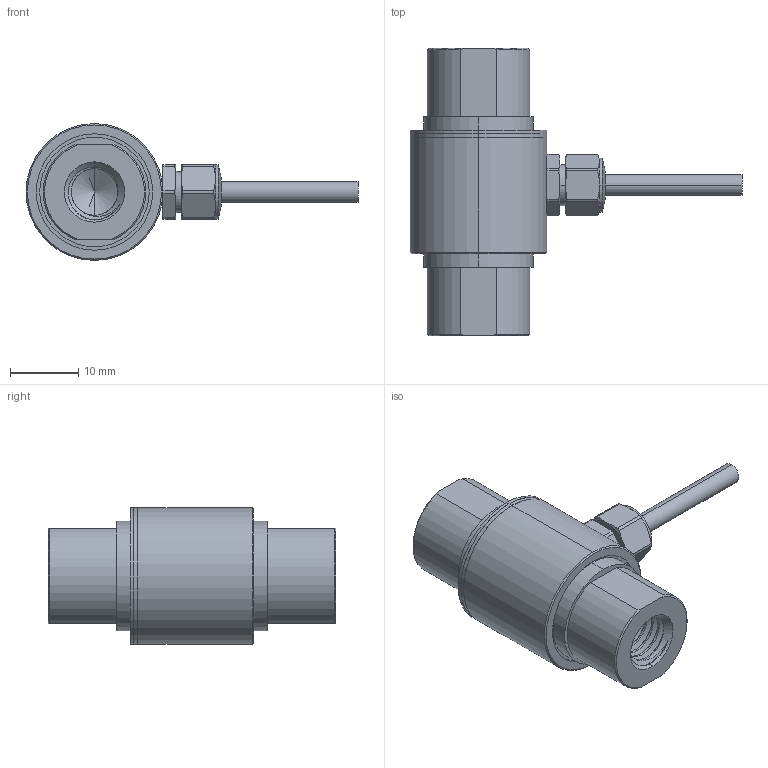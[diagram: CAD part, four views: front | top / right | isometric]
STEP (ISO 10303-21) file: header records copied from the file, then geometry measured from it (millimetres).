
FILE_DESCRIPTION (( 'STEP AP203' ), '1' );
FILE_NAME ('LCR16-M8.STEP', '2024-11-13T13:27:36', ( '' ), ( '' ), 'SwSTEP 2.0', 'SolidWorks 2019', '' );
FILE_SCHEMA (( 'CONFIG_CONTROL_DESIGN' ));
Length unit declared in the file: millimetre
Products named in the file (1): LCR16-M8
Bounding box: 48.5 x 42 x 20 mm (x, y, z)
Volume: 9564.9 mm3; surface area: 4193 mm2
Topology: 2 solids, 2 shells, 128 faces, 326 edges, 210 vertices
Faces by surface type: cylinder 66, plane 32, cone 18, bspline 6, torus 6
Entity records: 6365 total; most frequent: CARTESIAN_POINT 3415, ORIENTED_EDGE 644, DIRECTION 562, EDGE_CURVE 322, AXIS2_PLACEMENT_3D 223, VERTEX_POINT 210, EDGE_LOOP 140, ADVANCED_FACE 128
